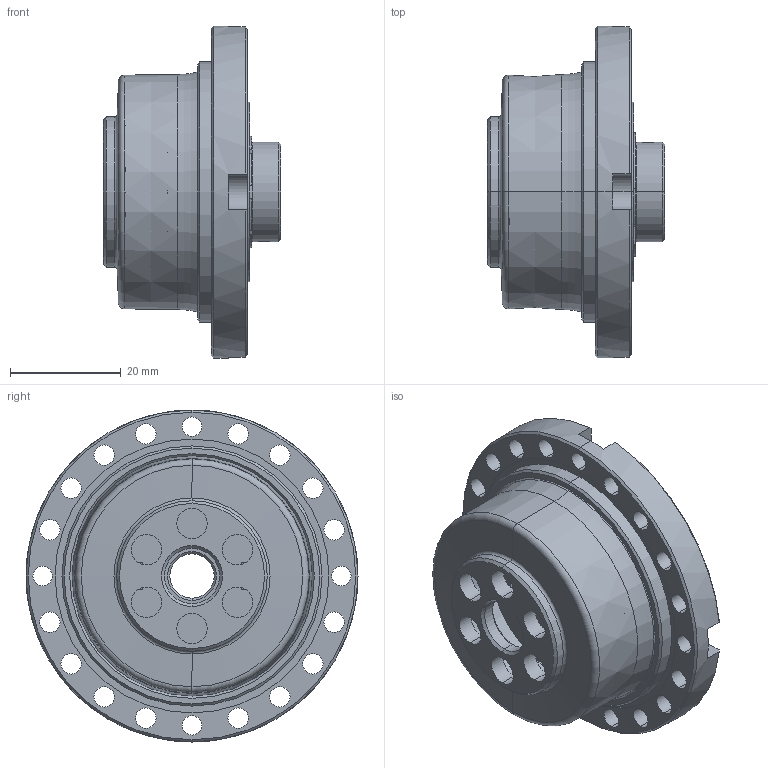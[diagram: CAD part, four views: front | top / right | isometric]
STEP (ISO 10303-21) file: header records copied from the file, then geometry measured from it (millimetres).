
FILE_DESCRIPTION (( 'STEP AP203' ), '1' );
FILE_NAME ('LCSG-17-XXX-P-II.STEP', '2017-09-04T07:35:52', ( 'Windows 蚚誧' ), ( 'Users' ), 'SwSTEP 2.0', 'SolidWorks 2013', '' );
FILE_SCHEMA (( 'CONFIG_CONTROL_DESIGN' ));
Length unit declared in the file: millimetre
Products named in the file (11): SZ-17-II; LCSG-17-XXX-P-II; LHS-17-XXX-P03-II; DB-17-II; 轴径 18 （改）_GB_CONNECTING_PIECE_RING_RRA 18; RZC-17G内外圈+钢球; RZC-17悵厥殤; 柔性轴承RZC-17G; LCS-17-XXX-P01; LJ-17G-II; LHS-17-XXX-P02
Assembly tree (10 placements, depth 3):
  LCSG-17-XXX-P-II
    LJ-17G-II
    SZ-17-II
    LHS-17-XXX-P03-II
    DB-17-II
    轴径 18 （改）_GB_CONNECTING_PIECE_RING_RRA 18
    柔性轴承RZC-17G
      RZC-17G内外圈+钢球
      RZC-17悵厥殤
    LCS-17-XXX-P01
    LHS-17-XXX-P02
Bounding box: 32 x 60 x 60 mm (x, y, z)
Volume: 24779.9 mm3; surface area: 31211.3 mm2
Topology: 33 solids, 33 shells, 438 faces, 1185 edges, 773 vertices
Faces by surface type: cylinder 200, plane 122, sphere 46, cone 36, torus 34
Entity records: 14673 total; most frequent: DIRECTION 2616, CARTESIAN_POINT 2438, ORIENTED_EDGE 2140, AXIS2_PLACEMENT_3D 1114, EDGE_CURVE 1070, VERTEX_POINT 704, CIRCLE 662, EDGE_LOOP 522
